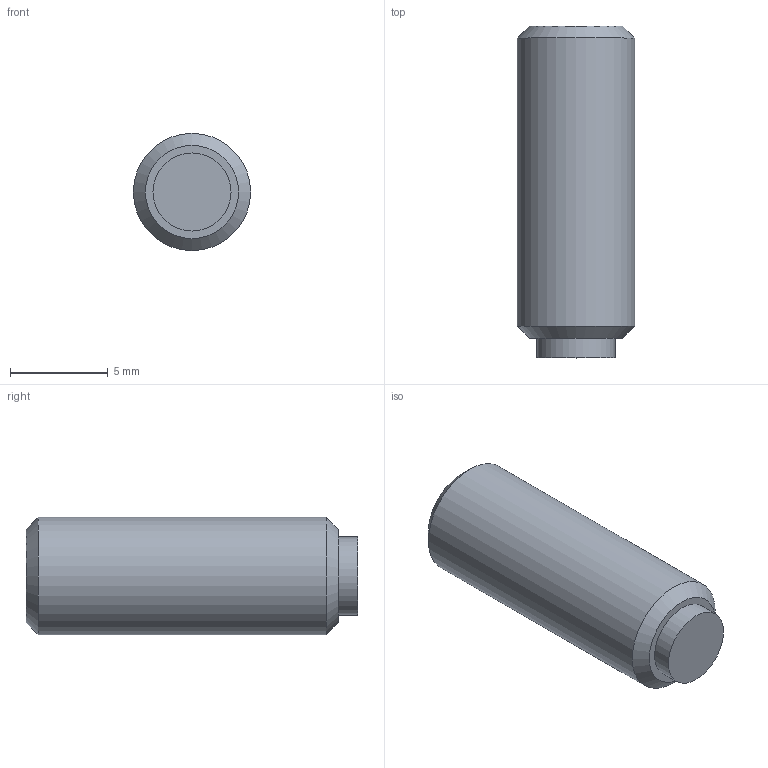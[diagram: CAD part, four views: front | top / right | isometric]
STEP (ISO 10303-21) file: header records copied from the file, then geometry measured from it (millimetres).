
FILE_DESCRIPTION( ( 'STEP AP203' ), '1' );
FILE_NAME( 'C:/Temp/Ganter_Step_05_03_2020/data/3_2/gn913_3/Grub screw GN 913.3-M6-16-MS.stp', '2020-03-13T05:35:48', ( 'License CC BY-ND 4.0' ), ( 'CADENAS' ), ' ', 'PARTsolutions', ' ' );
FILE_SCHEMA( ( 'CONFIG_CONTROL_DESIGN' ) );
Length unit declared in the file: millimetre
Products named in the file (1): _Grub screw GN 913.3-M6-16-MS
Bounding box: 6 x 17 x 6 mm (x, y, z)
Volume: 431.1 mm3; surface area: 392.6 mm2
Topology: 1 solids, 1 shells, 14 faces, 28 edges, 18 vertices
Faces by surface type: plane 10, cylinder 2, cone 2
Full cylindrical faces by diameter (mm): 4 x1, 6 x1
Entity records: 386 total; most frequent: DIRECTION 60, CARTESIAN_POINT 57, ORIENTED_EDGE 48, EDGE_CURVE 24, AXIS2_PLACEMENT_3D 21, EDGE_LOOP 20, VERTEX_POINT 18, LINE 18
